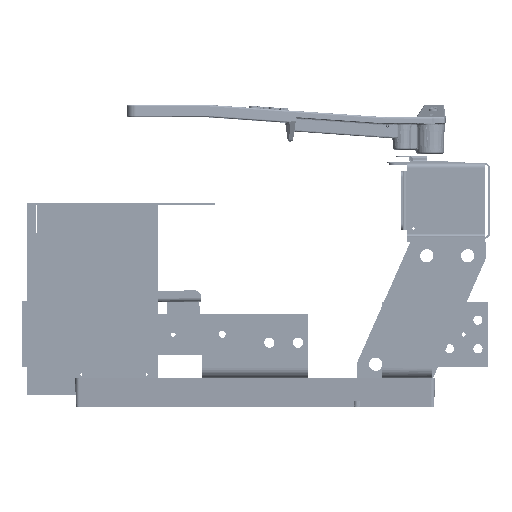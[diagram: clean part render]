
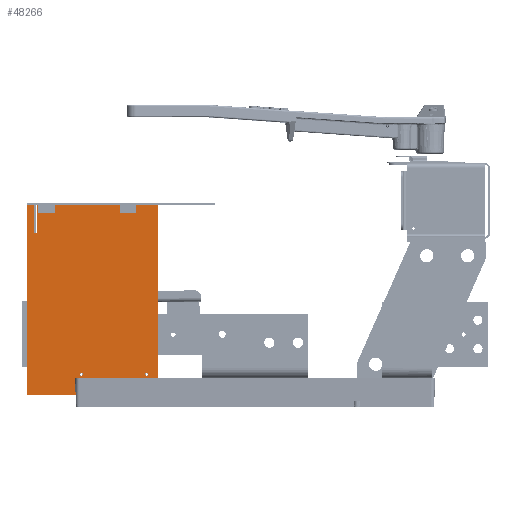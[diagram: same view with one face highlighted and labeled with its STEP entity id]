
A CAD part, left-side view. The second image highlights one B-rep face of the part: STEP entity #48266.
In plain terms, the highlighted planar face has unit normal (-1, 0, 0) as drawn and (0, 0, -1) by its records, which use the part's own axes.
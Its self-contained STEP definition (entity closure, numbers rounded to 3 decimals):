
#2443=FACE_BOUND('',#10430,.T.);
#2444=FACE_BOUND('',#10431,.T.);
#2445=FACE_BOUND('',#10432,.T.);
#2446=FACE_BOUND('',#10433,.T.);
#4163=CIRCLE('',#53146,0.097);
#4165=CIRCLE('',#53149,0.097);
#4167=CIRCLE('',#53152,0.097);
#4169=CIRCLE('',#53155,0.097);
#7217=FACE_OUTER_BOUND('',#10429,.T.);
#10429=EDGE_LOOP('',(#41251,#41252,#41253,#41254,#41255,#41256,#41257,#41258,
#41259,#41260,#41261,#41262));
#10430=EDGE_LOOP('',(#41263));
#10431=EDGE_LOOP('',(#41264));
#10432=EDGE_LOOP('',(#41265));
#10433=EDGE_LOOP('',(#41266));
#14417=LINE('',#80153,#18602);
#14421=LINE('',#80161,#18606);
#14424=LINE('',#80167,#18609);
#14427=LINE('',#80173,#18612);
#14430=LINE('',#80179,#18615);
#14433=LINE('',#80185,#18618);
#14436=LINE('',#80191,#18621);
#14439=LINE('',#80197,#18624);
#14442=LINE('',#80203,#18627);
#14445=LINE('',#80209,#18630);
#14448=LINE('',#80215,#18633);
#14451=LINE('',#80220,#18636);
#18602=VECTOR('',#64457,0.394);
#18606=VECTOR('',#64463,0.394);
#18609=VECTOR('',#64468,0.394);
#18612=VECTOR('',#64473,0.394);
#18615=VECTOR('',#64478,0.394);
#18618=VECTOR('',#64483,0.394);
#18621=VECTOR('',#64488,0.394);
#18624=VECTOR('',#64493,0.394);
#18627=VECTOR('',#64498,0.394);
#18630=VECTOR('',#64503,0.394);
#18633=VECTOR('',#64508,0.394);
#18636=VECTOR('',#64513,0.394);
#22948=VERTEX_POINT('',#80127);
#22950=VERTEX_POINT('',#80133);
#22952=VERTEX_POINT('',#80139);
#22954=VERTEX_POINT('',#80145);
#22956=VERTEX_POINT('',#80151);
#22957=VERTEX_POINT('',#80152);
#22960=VERTEX_POINT('',#80160);
#22962=VERTEX_POINT('',#80166);
#22964=VERTEX_POINT('',#80172);
#22966=VERTEX_POINT('',#80178);
#22968=VERTEX_POINT('',#80184);
#22970=VERTEX_POINT('',#80190);
#22972=VERTEX_POINT('',#80196);
#22974=VERTEX_POINT('',#80202);
#22976=VERTEX_POINT('',#80208);
#22978=VERTEX_POINT('',#80214);
#29209=EDGE_CURVE('',#22948,#22948,#4163,.T.);
#29212=EDGE_CURVE('',#22950,#22950,#4165,.T.);
#29215=EDGE_CURVE('',#22952,#22952,#4167,.T.);
#29218=EDGE_CURVE('',#22954,#22954,#4169,.T.);
#29221=EDGE_CURVE('',#22956,#22957,#14417,.T.);
#29225=EDGE_CURVE('',#22960,#22956,#14421,.T.);
#29228=EDGE_CURVE('',#22962,#22960,#14424,.T.);
#29231=EDGE_CURVE('',#22964,#22962,#14427,.T.);
#29234=EDGE_CURVE('',#22966,#22964,#14430,.T.);
#29237=EDGE_CURVE('',#22968,#22966,#14433,.T.);
#29240=EDGE_CURVE('',#22970,#22968,#14436,.T.);
#29243=EDGE_CURVE('',#22972,#22970,#14439,.T.);
#29246=EDGE_CURVE('',#22974,#22972,#14442,.T.);
#29249=EDGE_CURVE('',#22976,#22974,#14445,.T.);
#29252=EDGE_CURVE('',#22978,#22976,#14448,.T.);
#29255=EDGE_CURVE('',#22957,#22978,#14451,.T.);
#41251=ORIENTED_EDGE('',*,*,#29255,.F.);
#41252=ORIENTED_EDGE('',*,*,#29221,.F.);
#41253=ORIENTED_EDGE('',*,*,#29225,.F.);
#41254=ORIENTED_EDGE('',*,*,#29228,.F.);
#41255=ORIENTED_EDGE('',*,*,#29231,.F.);
#41256=ORIENTED_EDGE('',*,*,#29234,.F.);
#41257=ORIENTED_EDGE('',*,*,#29237,.F.);
#41258=ORIENTED_EDGE('',*,*,#29240,.F.);
#41259=ORIENTED_EDGE('',*,*,#29243,.F.);
#41260=ORIENTED_EDGE('',*,*,#29246,.F.);
#41261=ORIENTED_EDGE('',*,*,#29249,.F.);
#41262=ORIENTED_EDGE('',*,*,#29252,.F.);
#41263=ORIENTED_EDGE('',*,*,#29209,.T.);
#41264=ORIENTED_EDGE('',*,*,#29212,.T.);
#41265=ORIENTED_EDGE('',*,*,#29215,.T.);
#41266=ORIENTED_EDGE('',*,*,#29218,.T.);
#46036=PLANE('',#53170);
#48266=ADVANCED_FACE('',(#7217,#2443,#2444,#2445,#2446),#46036,.F.);
#53146=AXIS2_PLACEMENT_3D('',#80128,#64429,#64430);
#53149=AXIS2_PLACEMENT_3D('',#80134,#64436,#64437);
#53152=AXIS2_PLACEMENT_3D('',#80140,#64443,#64444);
#53155=AXIS2_PLACEMENT_3D('',#80146,#64450,#64451);
#53170=AXIS2_PLACEMENT_3D('',#80223,#64517,#64518);
#64429=DIRECTION('center_axis',(0.,0.,1.));
#64430=DIRECTION('ref_axis',(-1.,0.,0.));
#64436=DIRECTION('center_axis',(0.,0.,1.));
#64437=DIRECTION('ref_axis',(-1.,0.,0.));
#64443=DIRECTION('center_axis',(0.,0.,1.));
#64444=DIRECTION('ref_axis',(-1.,0.,0.));
#64450=DIRECTION('center_axis',(0.,0.,1.));
#64451=DIRECTION('ref_axis',(-1.,0.,0.));
#64457=DIRECTION('',(1.,0.,0.));
#64463=DIRECTION('',(0.,1.,0.));
#64468=DIRECTION('',(1.,0.,0.));
#64473=DIRECTION('',(0.,-1.,0.));
#64478=DIRECTION('',(-1.,0.,0.));
#64483=DIRECTION('',(0.,-1.,0.));
#64488=DIRECTION('',(1.,0.,0.));
#64493=DIRECTION('',(0.,-1.,0.));
#64498=DIRECTION('',(-1.,0.,0.));
#64503=DIRECTION('',(0.,1.,0.));
#64508=DIRECTION('',(1.,0.,0.));
#64513=DIRECTION('',(0.,-1.,0.));
#64517=DIRECTION('center_axis',(0.,0.,1.));
#64518=DIRECTION('ref_axis',(1.,0.,0.));
#80127=CARTESIAN_POINT('',(0.347,2.,0.));
#80128=CARTESIAN_POINT('Origin',(0.25,2.,0.));
#80133=CARTESIAN_POINT('',(0.347,7.,0.));
#80134=CARTESIAN_POINT('Origin',(0.25,7.,0.));
#80139=CARTESIAN_POINT('',(10.472,0.688,0.));
#80140=CARTESIAN_POINT('Origin',(10.375,0.688,0.));
#80145=CARTESIAN_POINT('',(10.472,4.688,0.));
#80146=CARTESIAN_POINT('Origin',(10.375,4.688,0.));
#80151=CARTESIAN_POINT('',(10.625,5.094,0.));
#80152=CARTESIAN_POINT('',(11.156,5.094,0.));
#80153=CARTESIAN_POINT('',(10.625,5.094,0.));
#80160=CARTESIAN_POINT('',(10.625,0.,0.));
#80161=CARTESIAN_POINT('',(10.625,0.,0.));
#80166=CARTESIAN_POINT('',(0.,0.,0.));
#80167=CARTESIAN_POINT('',(0.,0.,0.));
#80172=CARTESIAN_POINT('',(0.,7.422,0.));
#80173=CARTESIAN_POINT('',(0.,7.422,0.));
#80178=CARTESIAN_POINT('',(1.75,7.422,0.));
#80179=CARTESIAN_POINT('',(1.75,7.422,0.));
#80184=CARTESIAN_POINT('',(1.75,7.578,0.));
#80185=CARTESIAN_POINT('',(1.75,7.578,0.));
#80190=CARTESIAN_POINT('',(0.,7.578,0.));
#80191=CARTESIAN_POINT('',(0.,7.578,0.));
#80196=CARTESIAN_POINT('',(0.,8.,0.));
#80197=CARTESIAN_POINT('',(0.,8.,0.));
#80202=CARTESIAN_POINT('',(11.625,8.,0.));
#80203=CARTESIAN_POINT('',(11.625,8.,0.));
#80208=CARTESIAN_POINT('',(11.625,4.719,0.));
#80209=CARTESIAN_POINT('',(11.625,4.719,0.));
#80214=CARTESIAN_POINT('',(11.156,4.719,0.));
#80215=CARTESIAN_POINT('',(11.156,4.719,0.));
#80220=CARTESIAN_POINT('',(11.156,5.094,0.));
#80223=CARTESIAN_POINT('Origin',(5.401,4.41,0.));
